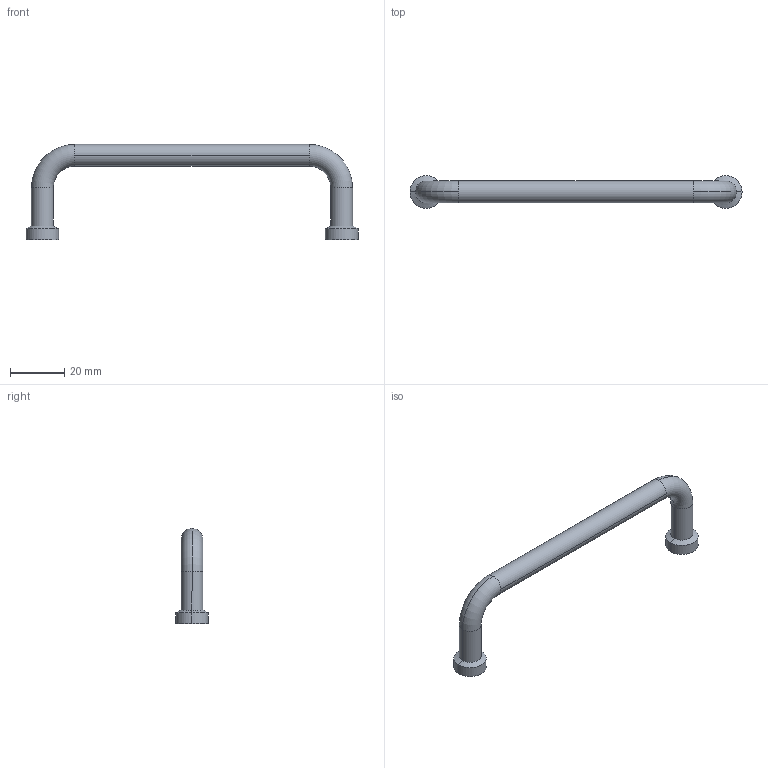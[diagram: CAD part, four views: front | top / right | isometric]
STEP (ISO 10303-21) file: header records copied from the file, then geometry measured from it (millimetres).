
FILE_DESCRIPTION((''),'2;1');
FILE_NAME('6418.01.30.stp','2023-10-09T16:48:42',(''),(''),'Mechanical Desktop 2006','Mechanical Desktop 2006',', , ');
FILE_SCHEMA(('CONFIG_CONTROL_DESIGN'));
Length unit declared in the file: millimetre
Products named in the file (1): Product
Bounding box: 122 x 12 x 35 mm (x, y, z)
Volume: 8309.9 mm3; surface area: 4814.6 mm2
Topology: 1 solids, 1 shells, 30 faces, 62 edges, 36 vertices
Faces by surface type: cylinder 14, cone 8, torus 4, plane 4
Entity records: 893 total; most frequent: DIRECTION 164, CARTESIAN_POINT 129, ORIENTED_EDGE 124, AXIS2_PLACEMENT_3D 71, EDGE_CURVE 62, CIRCLE 40, VERTEX_POINT 36, EDGE_LOOP 32
